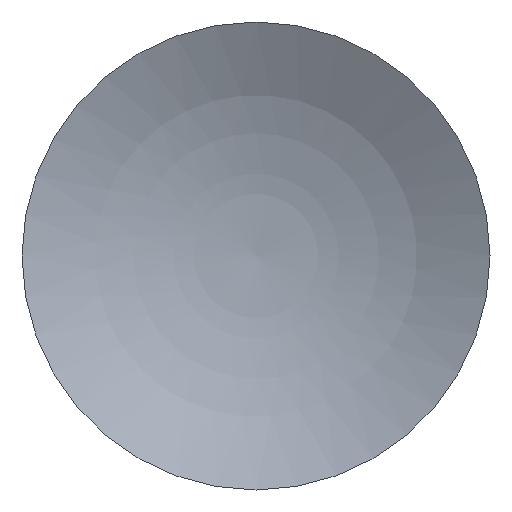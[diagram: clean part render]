
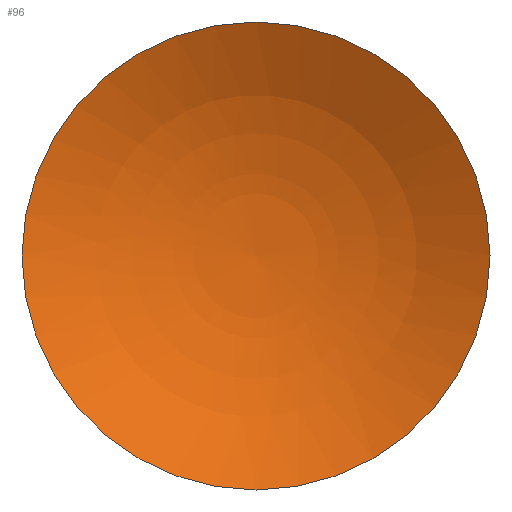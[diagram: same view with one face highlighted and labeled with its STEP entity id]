
A CAD part, front view. The second image highlights one B-rep face of the part: STEP entity #96.
In plain terms, the highlighted free-form (B-spline) face has degree [2, 2] with [3, 3] control points.
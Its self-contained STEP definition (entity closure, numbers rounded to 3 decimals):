
#68=CARTESIAN_POINT('',(6.573,-5.613,-7.5));
#69=CARTESIAN_POINT('',(8.558,-2.,0.0));
#70=CARTESIAN_POINT('',(6.573,-5.613,7.5));
#71=CARTESIAN_POINT('',(0.,-2.,-7.5));
#72=CARTESIAN_POINT('',(0.,2.704,0.0));
#73=CARTESIAN_POINT('',(0.,-2.,7.5));
#74=CARTESIAN_POINT('',(-6.573,-5.613,-7.5));
#75=CARTESIAN_POINT('',(-8.558,-2.,0.0));
#76=CARTESIAN_POINT('',(-6.573,-5.613,7.5));
#84=(BOUNDED_SURFACE()B_SPLINE_SURFACE(2,2,((#68,#71,#74),(#69,#72,#75),(#70,#73,#76)),.UNSPECIFIED.,.F.,.F.,.U.)B_SPLINE_SURFACE_WITH_KNOTS((3,3),(3,3),(-0.503,0.503),(0.0,1.005),.UNSPECIFIED.)GEOMETRIC_REPRESENTATION_ITEM()RATIONAL_B_SPLINE_SURFACE(((1.0,0.876,1.0),(0.876,0.768,0.876),(1.0,0.876,1.0)))REPRESENTATION_ITEM('')SURFACE());
#85=CARTESIAN_POINT('',(-7.5,-3.925,0.0));
#86=VERTEX_POINT('',#85);
#87=CARTESIAN_POINT('',(0.0,-3.925,0.0));
#88=DIRECTION('',(0.0,1.0,0.0));
#89=DIRECTION('',(-1.0,0.0,0.0));
#90=AXIS2_PLACEMENT_3D('',#87,#88,#89);
#91=CIRCLE('',#90,7.5);
#92=EDGE_CURVE('',#86,#86,#91,.T.);
#93=ORIENTED_EDGE('',*,*,#92,.F.);
#94=EDGE_LOOP('',(#93));
#95=FACE_OUTER_BOUND('',#94,.T.);
#96=ADVANCED_FACE('',(#95),#84,.T.);
